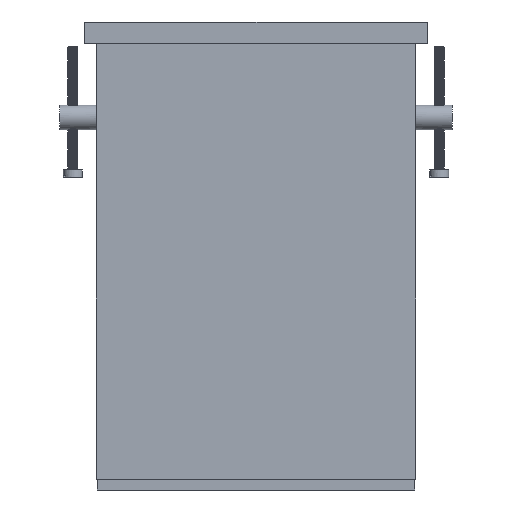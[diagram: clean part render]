
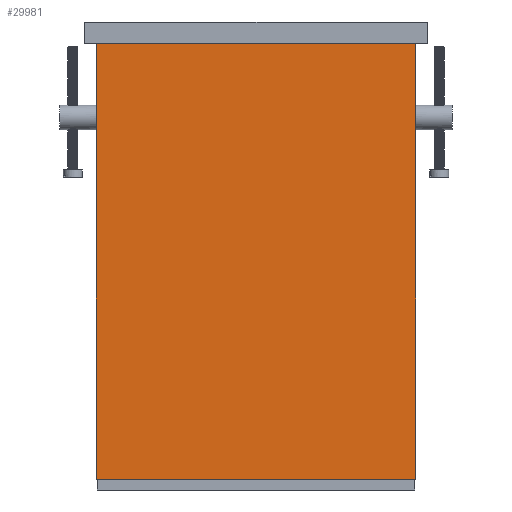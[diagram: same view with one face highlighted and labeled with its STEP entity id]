
A CAD part, front view. The second image highlights one B-rep face of the part: STEP entity #29981.
In plain terms, the highlighted planar face has unit normal (0, -1, 0).
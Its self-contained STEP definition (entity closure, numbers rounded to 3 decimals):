
#1024 = DIRECTION ( 'NONE',  ( 0., 0., 1. ) ) ;
#3145 = DIRECTION ( 'NONE',  ( 1., 0., 0. ) ) ;
#4836 = CARTESIAN_POINT ( 'NONE',  ( -45.25, -21.6, -128.5 ) ) ;
#5847 = EDGE_LOOP ( 'NONE', ( #27871, #30217, #15678, #19280 ) ) ;
#8160 = VECTOR ( 'NONE', #1024, 1000. ) ;
#8490 = CARTESIAN_POINT ( 'NONE',  ( -45.25, -21.6, -128.5 ) ) ;
#10730 = LINE ( 'NONE', #14709, #8160 ) ;
#11884 = VERTEX_POINT ( 'NONE', #24118 ) ;
#12282 = EDGE_CURVE ( 'NONE', #11884, #27308, #28819, .T. ) ;
#13091 = DIRECTION ( 'NONE',  ( 0., 0., 1. ) ) ;
#13823 = VECTOR ( 'NONE', #13091, 1000. ) ;
#14012 = DIRECTION ( 'NONE',  ( 0., 0., -1. ) ) ;
#14674 = LINE ( 'NONE', #4836, #13823 ) ;
#14709 = CARTESIAN_POINT ( 'NONE',  ( 45.25, -21.6, -128.5 ) ) ;
#15678 = ORIENTED_EDGE ( 'NONE', *, *, #29308, .F. ) ;
#16779 = VECTOR ( 'NONE', #3145, 1000. ) ;
#18085 = VECTOR ( 'NONE', #25785, 1000. ) ;
#19280 = ORIENTED_EDGE ( 'NONE', *, *, #29441, .T. ) ;
#20588 = FACE_OUTER_BOUND ( 'NONE', #5847, .T. ) ;
#22995 = CARTESIAN_POINT ( 'NONE',  ( -45.25, -21.6, -4.5 ) ) ;
#24079 = LINE ( 'NONE', #25046, #16779 ) ;
#24118 = CARTESIAN_POINT ( 'NONE',  ( -45.25, -21.6, -4.5 ) ) ;
#25040 = CARTESIAN_POINT ( 'NONE',  ( 45.25, -21.6, -128.5 ) ) ;
#25046 = CARTESIAN_POINT ( 'NONE',  ( -45.25, -21.6, -128.5 ) ) ;
#25785 = DIRECTION ( 'NONE',  ( 1., 0., 0. ) ) ;
#26262 = CARTESIAN_POINT ( 'NONE',  ( -45.25, -21.6, -128.5 ) ) ;
#27308 = VERTEX_POINT ( 'NONE', #28480 ) ;
#27497 = PLANE ( 'NONE',  #32135 ) ;
#27703 = VERTEX_POINT ( 'NONE', #25040 ) ;
#27871 = ORIENTED_EDGE ( 'NONE', *, *, #30572, .T. ) ;
#28480 = CARTESIAN_POINT ( 'NONE',  ( 45.25, -21.6, -4.5 ) ) ;
#28819 = LINE ( 'NONE', #22995, #18085 ) ;
#29308 = EDGE_CURVE ( 'NONE', #34417, #11884, #14674, .T. ) ;
#29441 = EDGE_CURVE ( 'NONE', #34417, #27703, #24079, .T. ) ;
#29981 = ADVANCED_FACE ( 'NONE', ( #20588 ), #27497, .T. ) ;
#30217 = ORIENTED_EDGE ( 'NONE', *, *, #12282, .F. ) ;
#30345 = DIRECTION ( 'NONE',  ( 0., -1., 0. ) ) ;
#30572 = EDGE_CURVE ( 'NONE', #27703, #27308, #10730, .T. ) ;
#32135 = AXIS2_PLACEMENT_3D ( 'NONE', #8490, #30345, #14012 ) ;
#34417 = VERTEX_POINT ( 'NONE', #26262 ) ;
